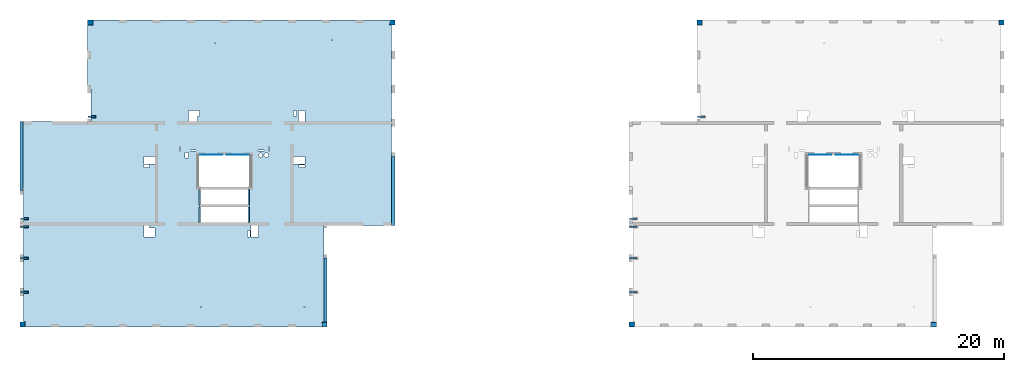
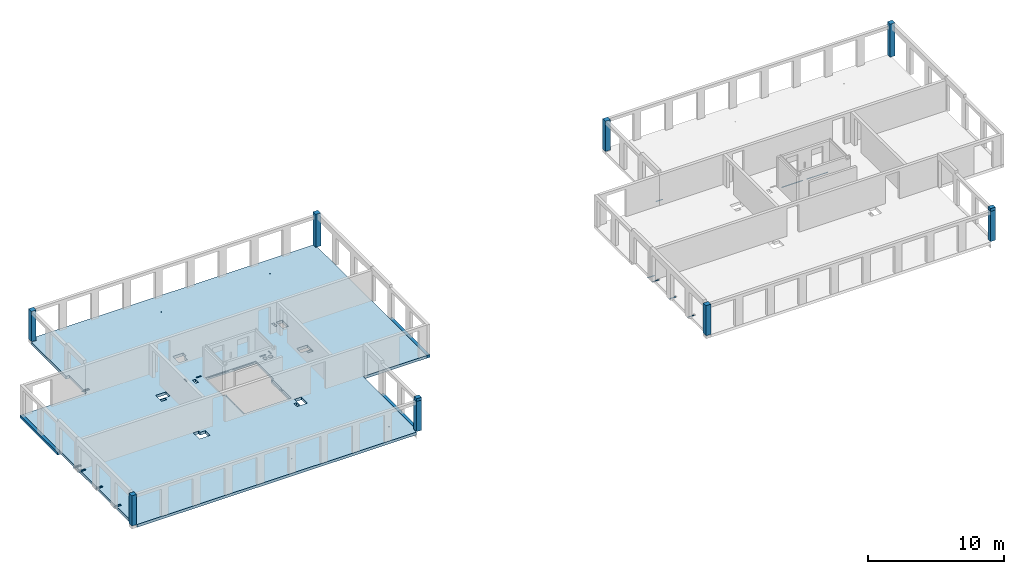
# One storey, part 1 of 8: 14 beams, 10 columns, 4 slabs, 35 openings.
"""IFC2X3 building model written with IfcOpenShell, lengths in millimetres."""

from ifc_helpers import new_model, entity, si_unit, converted_unit, derived_unit, direction, frame, frame_2d, origin, origin_2d_with_axis, place, context, subcontext, project, spatial, polyline, rectangle, circle, outline, extrude, source, transform, mapped, material, layer, layer_set, layer_usage, type_object, type_shapes, element, save


model = new_model("IFC2X3")

# Units and contexts
model_context = context("Model", 3, precision=0.01, world=origin(), true_north=direction((6.12303176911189e-17, 1.0)))
body_context = subcontext(model_context, "Body", "Model", "MODEL_VIEW")
ifc_project = project(units=[si_unit("LENGTHUNIT", "METRE", prefix="MILLI"), si_unit("AREAUNIT", "SQUARE_METRE"), si_unit("VOLUMEUNIT", "CUBIC_METRE"), converted_unit("PLANEANGLEUNIT", "DEGREE", entity("IfcRatioMeasure", 0.0174532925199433), si_unit("PLANEANGLEUNIT", "RADIAN"), dimensions=[0, 0, 0, 0, 0, 0, 0]), si_unit("MASSUNIT", "GRAM", prefix="KILO"), derived_unit("MASSDENSITYUNIT", [(si_unit("MASSUNIT", "GRAM", prefix="KILO"), 1), (si_unit("LENGTHUNIT", "METRE"), -3)]), si_unit("TIMEUNIT", "SECOND"), si_unit("FREQUENCYUNIT", "HERTZ"), si_unit("THERMODYNAMICTEMPERATUREUNIT", "DEGREE_CELSIUS"), derived_unit("THERMALTRANSMITTANCEUNIT", [(si_unit("MASSUNIT", "GRAM", prefix="KILO"), 1), (si_unit("THERMODYNAMICTEMPERATUREUNIT", "KELVIN"), -1), (si_unit("TIMEUNIT", "SECOND"), -3)]), derived_unit("VOLUMETRICFLOWRATEUNIT", [(si_unit("LENGTHUNIT", "METRE"), 3), (si_unit("TIMEUNIT", "SECOND"), -1)]), si_unit("ELECTRICCURRENTUNIT", "AMPERE"), si_unit("ELECTRICVOLTAGEUNIT", "VOLT"), si_unit("POWERUNIT", "WATT"), si_unit("FORCEUNIT", "NEWTON", prefix="KILO"), si_unit("ILLUMINANCEUNIT", "LUX"), si_unit("LUMINOUSFLUXUNIT", "LUMEN"), si_unit("LUMINOUSINTENSITYUNIT", "CANDELA"), derived_unit("USERDEFINED", [(si_unit("MASSUNIT", "GRAM", prefix="KILO"), -1), (si_unit("LENGTHUNIT", "METRE"), -2), (si_unit("TIMEUNIT", "SECOND"), 3), (si_unit("LUMINOUSFLUXUNIT", "LUMEN"), 1)]), derived_unit("LINEARVELOCITYUNIT", [(si_unit("LENGTHUNIT", "METRE"), 1), (si_unit("TIMEUNIT", "SECOND"), -1)]), si_unit("PRESSUREUNIT", "PASCAL"), derived_unit("USERDEFINED", [(si_unit("LENGTHUNIT", "METRE"), -2), (si_unit("MASSUNIT", "GRAM", prefix="KILO"), 1), (si_unit("TIMEUNIT", "SECOND"), -2)])], contexts=[model_context])

# Site, building, storey
site_placement = place(None, origin())
site = spatial("IfcSite", under=ifc_project, at=site_placement, Name="Default", CompositionType="ELEMENT")
building_placement = place(site_placement, origin())
building = spatial("IfcBuilding", under=site, at=building_placement, Name="niet gebruiken", CompositionType="ELEMENT")
storey_placement = place(building_placement, frame((0.0, 0.0, 45270.0)))
storey = spatial("IfcBuildingStorey", under=building, at=storey_placement, Name="15 vijftiende verdieping", CompositionType="ELEMENT", Elevation=45270.0)

# Columns
ifc_material_1 = material(Name="NLRS_f2_beton prefab")
column_type_1 = type_object("IfcColumnType", Name="410x410", PredefinedType="COLUMN", material=ifc_material_1)
shared_shape_1 = source(origin(), body_context, "Body", "SweptSolid", [
    extrude(rectangle(XDim=410.0, YDim=410.0, at=origin_2d_with_axis()), frame((0.0, 0.0, 45200.0), z_axis=(0.0, 0.0, 1.0), x_axis=(0.0, -1.0, 0.0)), (0.0, 0.0, 1.0), 2699.99999999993),
])
type_shapes(column_type_1, [shared_shape_1])
for number, where, name in (
    (1, (99795.0, 28961.0, -45270.0), "NLRS_28. kolom vierkant_gen:410x410"),
    (2, (81105.0, 53051.0, -45270.0), "NLRS_28. kolom vierkant_gen:410x410"),
    (3, (51195.0, 28961.0, -45270.0), "NLRS_28. kolom vierkant_gen:410x410"),
    (4, (32505.0, 53051.0, -45270.0), "NLRS_28. kolom vierkant_gen:410x410"),
):
    element("IfcColumn", number, at=place(storey_placement, frame(where)), inside=storey, type_object=column_type_1, material=ifc_material_1, Name=name, ObjectType="410x410", context=body_context, shape_type="MappedRepresentation", body=[
        mapped(shared_shape_1, transform((0.0, 0.0, 0.0), scale=1.0)),
    ])
column_type_2 = type_object("IfcColumnType", Name="410x410", PredefinedType="COLUMN", material=ifc_material_1)
shared_shape_2 = source(origin(), body_context, "Body", "SweptSolid", [
    extrude(rectangle(XDim=410.0, YDim=410.0, at=origin_2d_with_axis()), frame((0.0, 0.0, 45200.0), z_axis=(0.0, 0.0, 1.0), x_axis=(0.0, -1.0, 0.0)), (0.0, 0.0, 1.0), 2700.0),
])
type_shapes(column_type_2, [shared_shape_2])
for number, where, z_axis, x_axis, name in (
    (5, (75705.0, 28961.0, -45270.0), (0.0, 0.0, 1.0), (0.0, 1.0, 0.0), "NLRS_28. kolom vierkant_gen1:410x410"),
    (6, (27105.0, 28961.0, -45270.0), (0.0, 0.0, 1.0), (0.0, 1.0, 0.0), "NLRS_28. kolom vierkant_gen1:410x410"),
):
    element("IfcColumn", number, at=place(storey_placement, frame(where, z_axis=z_axis, x_axis=x_axis)), inside=storey, type_object=column_type_2, material=ifc_material_1, Name=name, ObjectType="410x410", context=body_context, shape_type="MappedRepresentation", body=[
        mapped(shared_shape_2, transform((0.0, 0.0, 0.0), scale=1.0)),
    ])
column_type_3 = type_object("IfcColumnType", Name="410x410", PredefinedType="COLUMN", material=ifc_material_1)
shared_shape_3 = source(origin(), body_context, "Body", "SweptSolid", [
    extrude(rectangle(XDim=410.000000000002, YDim=409.999999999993, at=origin_2d_with_axis()), frame((105195.0, 53051.0, 45200.0), z_axis=(0.0, 0.0, 1.0), x_axis=(0.0, -1.0, 0.0)), (0.0, 0.0, 1.0), 2950.00000000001),
])
type_shapes(column_type_3, [shared_shape_3])
column_1_placement = place(storey_placement, frame((0.0, 0.0, -45270.0)))
element("IfcColumn", 7, at=column_1_placement, inside=storey, type_object=column_type_3, material=ifc_material_1, Name="NLRS_28. kolom vierkant_gen:410x410", ObjectType="410x410", context=body_context, shape_type="MappedRepresentation", body=[
    mapped(shared_shape_3, transform((0.0, 0.0, 0.0), scale=1.0)),
])
column_type_4 = type_object("IfcColumnType", Name="410x410", PredefinedType="COLUMN", material=ifc_material_1)
shared_shape_4 = source(origin(), body_context, "Body", "SweptSolid", [
    extrude(rectangle(XDim=410.000000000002, YDim=410.000000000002, at=frame_2d((8.66862137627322e-12, 0.0), x_axis=(1.0, 0.0))), frame((56595.0, 53051.0, 45200.0), z_axis=(0.0, 0.0, 1.0), x_axis=(0.0, -1.0, 0.0)), (0.0, 0.0, 1.0), 2950.00000000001),
])
type_shapes(column_type_4, [shared_shape_4])
column_2_placement = place(storey_placement, frame((0.0, 0.0, -45270.0)))
element("IfcColumn", 8, at=column_2_placement, inside=storey, type_object=column_type_4, material=ifc_material_1, Name="NLRS_28. kolom vierkant_gen:410x410", ObjectType="410x410", context=body_context, shape_type="MappedRepresentation", body=[
    mapped(shared_shape_4, transform((0.0, 0.0, 0.0), scale=1.0)),
])
column_type_5 = type_object("IfcColumnType", Name="410x360", PredefinedType="COLUMN", material=ifc_material_1)
shared_shape_5 = source(origin(), body_context, "Body", "SweptSolid", [
    extrude(rectangle(XDim=360.0, YDim=409.999999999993, at=origin_2d_with_axis()), frame((99795.0, 28936.0, 47900.0), z_axis=(0.0, 0.0, 1.0), x_axis=(0.0, -1.0, 0.0)), (0.0, 0.0, 1.0), 250.000000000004),
])
type_shapes(column_type_5, [shared_shape_5])
column_3_placement = place(storey_placement, frame((0.0, 0.0, -45270.0)))
element("IfcColumn", 9, at=column_3_placement, inside=storey, type_object=column_type_5, material=ifc_material_1, Name="NLRS_28. kolom vierkant_gen:410x360", ObjectType="410x360", context=body_context, shape_type="MappedRepresentation", body=[
    mapped(shared_shape_5, transform((0.0, 0.0, 0.0), scale=1.0)),
])
column_type_6 = type_object("IfcColumnType", Name="410x360", PredefinedType="COLUMN", material=ifc_material_1)
shared_shape_6 = source(origin(), body_context, "Body", "SweptSolid", [
    extrude(rectangle(XDim=360.0, YDim=410.000000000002, at=origin_2d_with_axis()), frame((51195.0, 28936.0, 47900.0), z_axis=(0.0, 0.0, 1.0), x_axis=(0.0, -1.0, 0.0)), (0.0, 0.0, 1.0), 250.000000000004),
])
type_shapes(column_type_6, [shared_shape_6])
column_4_placement = place(storey_placement, frame((0.0, 0.0, -45270.0)))
element("IfcColumn", 10, at=column_4_placement, inside=storey, type_object=column_type_6, material=ifc_material_1, Name="NLRS_28. kolom vierkant_gen:410x360", ObjectType="410x360", context=body_context, shape_type="MappedRepresentation", body=[
    mapped(shared_shape_6, transform((0.0, 0.0, 0.0), scale=1.0)),
])

# Beams
ifc_material_2 = material(Name="NLRS_h2_staal")
beam_type_1 = type_object("IfcBeamType", Name="ligger stripstaal RECT_120x10", PredefinedType="BEAM", material=ifc_material_2)
shared_shape_7 = source(origin(), body_context, "Body", "SweptSolid", [
    extrude(rectangle(XDim=599.999999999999, YDim=120.0, at=origin_2d_with_axis()), frame((0.0, 0.0, -5.0), z_axis=(0.0, 0.0, 1.0), x_axis=(-1.0, 0.0, 0.0)), (0.0, 0.0, 1.0), 9.99999999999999),
    extrude(rectangle(XDim=599.999999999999, YDim=120.0, at=origin_2d_with_axis()), frame((0.0, 0.0, -5.0), z_axis=(0.0, 0.0, 1.0), x_axis=(-1.0, 0.0, 0.0)), (0.0, 0.0, 1.0), 9.99999999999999),
])
type_shapes(beam_type_1, [shared_shape_7])
for number, where, name in (
    (11, (75835.0, 31556.0, -115.0), "NLRS_28.11_SF_WPB_stalen ligger stripstaal_gen:ligger stripstaal RECT_120x10"),
    (12, (75835.0, 34256.0, -115.0), "NLRS_28.11_SF_WPB_stalen ligger stripstaal_gen:ligger stripstaal RECT_120x10"),
    (13, (75835.0, 36766.0, -115.0), "NLRS_28.11_SF_WPB_stalen ligger stripstaal_gen:ligger stripstaal RECT_120x10"),
    (14, (27235.0, 31556.0, -115.0), "NLRS_28.11_SF_WPB_stalen ligger stripstaal_gen:ligger stripstaal RECT_120x10"),
    (15, (27235.0, 34256.0, -115.0), "NLRS_28.11_SF_WPB_stalen ligger stripstaal_gen:ligger stripstaal RECT_120x10"),
    (16, (27235.0, 36766.0, -115.0), "NLRS_28.11_SF_WPB_stalen ligger stripstaal_gen:ligger stripstaal RECT_120x10"),
):
    element("IfcBeam", number, at=place(storey_placement, frame(where)), inside=storey, type_object=beam_type_1, material=ifc_material_2, Name=name, ObjectType="ligger stripstaal RECT_120x10", context=body_context, shape_type="MappedRepresentation", body=[
        mapped(shared_shape_7, transform((0.0, 0.0, 0.0), scale=1.0)),
    ])
beam_type_2 = type_object("IfcBeamType", Name="NLRS_28.11_SF_WPB_Halfen 40-22_gen:ligger stripstaal RECT_100x10", PredefinedType="BEAM")
beam_1_placement = place(storey_placement, frame((89865.0, 42496.0, -160.0)))
element("IfcBeam", 17, at=beam_1_placement, inside=storey, type_object=beam_type_2, material=ifc_material_2, Name="NLRS_28.11_SF_WPB_Halfen 40-22_gen:ligger stripstaal RECT_100x10", ObjectType="NLRS_28.11_SF_WPB_Halfen 40-22_gen:ligger stripstaal RECT_100x10", context=body_context, shape_type="SweptSolid", body=[
    extrude(outline(polyline([(-20.0, -8.0), (-9.0, -8.0), (-9.0, 0.0), (-11.0, 0.0), (-11.0, -6.0), (-18.0, -6.0), (-18.0, 13.0), (18.0, 13.0), (18.0, -6.0), (11.0, -6.0), (11.0, 0.0), (9.0, 0.0), (9.0, -8.0), (20.0, -8.0), (20.0, 15.0), (-20.0, 15.0), (-20.0, -8.0)])), frame((0.0, 8.0, 20.0), z_axis=(1.0, 0.0, 0.0), x_axis=(0.0, 0.0, -1.0)), (0.0, 0.0, 1.0), 1760.00000000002),
])
beam_2_placement = place(storey_placement, frame((91975.0, 42496.0, -160.0)))
element("IfcBeam", 18, at=beam_2_placement, inside=storey, type_object=beam_type_2, material=ifc_material_2, Name="NLRS_28.11_SF_WPB_Halfen 40-22_gen:ligger stripstaal RECT_100x10", ObjectType="NLRS_28.11_SF_WPB_Halfen 40-22_gen:ligger stripstaal RECT_100x10", context=body_context, shape_type="SweptSolid", body=[
    extrude(outline(polyline([(-20.0, -8.0), (-9.0, -8.0), (-9.0, 0.0), (-11.0, 0.0), (-11.0, -6.0), (-18.0, -6.0), (-18.0, 13.0), (18.0, 13.0), (18.0, -6.0), (11.0, -6.0), (11.0, 0.0), (9.0, 0.0), (9.0, -8.0), (20.0, -8.0), (20.0, 15.0), (-20.0, 15.0), (-20.0, -8.0)])), frame((0.0, 8.0, 20.0), z_axis=(1.0, 0.0, 0.0), x_axis=(0.0, 0.0, -1.0)), (0.0, 0.0, 1.0), 1760.0),
])
for number, where, name in (
    (19, (41264.9998491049, 42496.0, -160.0), "NLRS_28.11_SF_WPB_Halfen 40-22_gen:ligger stripstaal RECT_100x10"),
    (20, (43374.999849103, 42496.0, -160.0), "NLRS_28.11_SF_WPB_Halfen 40-22_gen:ligger stripstaal RECT_100x10"),
):
    element("IfcBeam", number, at=place(storey_placement, frame(where)), inside=storey, type_object=beam_type_2, material=ifc_material_2, Name=name, ObjectType="NLRS_28.11_SF_WPB_Halfen 40-22_gen:ligger stripstaal RECT_100x10", context=body_context, shape_type="SweptSolid", body=[
        extrude(outline(polyline([(-20.0, -8.0), (-9.0, -8.0), (-9.0, 0.0), (-11.0, 0.0), (-11.0, -6.0), (-18.0, -6.0), (-18.0, 13.0), (18.0, 13.0), (18.0, -6.0), (11.0, -6.0), (11.0, 0.0), (9.0, 0.0), (9.0, -8.0), (20.0, -8.0), (20.0, 15.0), (-20.0, 15.0), (-20.0, -8.0)])), frame((0.0, 8.0, 20.0), z_axis=(1.0, 0.0, 0.0), x_axis=(0.0, 0.0, -1.0)), (0.0, 0.0, 1.0), 1760.00000000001),
    ])
beam_type_3 = type_object("IfcBeamType", Name="ligger stripstaal RECT_120x10", PredefinedType="BEAM", material=ifc_material_2)
shared_shape_8 = source(origin(), body_context, "Body", "SweptSolid", [
    extrude(rectangle(XDim=120.0, YDim=600.000000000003, at=origin_2d_with_axis()), frame((0.0, 0.0, -5.0), z_axis=(0.0, 0.0, 1.0), x_axis=(0.0, 1.0, 0.0)), (0.0, 0.0, 1.0), 9.99999999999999),
    extrude(rectangle(XDim=120.0, YDim=600.000000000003, at=origin_2d_with_axis()), frame((0.0, 0.0, -5.0), z_axis=(0.0, 0.0, 1.0), x_axis=(0.0, 1.0, 0.0)), (0.0, 0.0, 1.0), 9.99999999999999),
])
type_shapes(beam_type_3, [shared_shape_8])
for number, where, name in (
    (21, (75835.0, 37386.0, -115.0), "NLRS_28.11_SF_WPB_stalen ligger stripstaal_gen:ligger stripstaal RECT_120x10"),
    (22, (81235.0, 45521.0, -115.0), "NLRS_28.11_SF_WPB_stalen ligger stripstaal_gen:ligger stripstaal RECT_120x10"),
    (23, (27235.0, 37386.0, -115.0), "NLRS_28.11_SF_WPB_stalen ligger stripstaal_gen:ligger stripstaal RECT_120x10"),
    (24, (32635.0, 45521.0, -115.0), "NLRS_28.11_SF_WPB_stalen ligger stripstaal_gen:ligger stripstaal RECT_120x10"),
):
    element("IfcBeam", number, at=place(storey_placement, frame(where)), inside=storey, type_object=beam_type_3, material=ifc_material_2, Name=name, ObjectType="ligger stripstaal RECT_120x10", context=body_context, shape_type="MappedRepresentation", body=[
        mapped(shared_shape_8, transform((0.0, 0.0, 0.0), scale=1.0)),
    ])

# Slab, openings
ifc_material_3 = material(Name="NLRS_f2_beton ihwg")
ifc_layer = layer(ifc_material_3, 250.0)
ifc_layer_set = layer_set([ifc_layer], Name="Floor:NLRS_23.21_FL_beton ihwg d=250_gen")
ifc_layer_usage_1 = layer_usage(ifc_layer_set, "AXIS3", "POSITIVE", 0.0)
slab_1_placement = place(storey_placement, frame((27150.0, 28756.0, -340.0)))
slab_1 = element("IfcSlab", 25, at=slab_1_placement, inside=storey, material=ifc_layer_usage_1, Name="Floor:NLRS_23.21_FL_beton ihwg d=250_gen", ObjectType="Floor:NLRS_23.21_FL_beton ihwg d=250_gen", PredefinedType="FLOOR", context=body_context, shape_type="SweptSolid", body=[
    extrude(outline(polyline([(9119.99996701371, 12250.0), (-14540.0, 12250.0), (-14540.0, 11840.0), (-14680.0, 11840.0), (-14680.0, 4060.0), (-14700.0, 4060.0), (-14700.0, -4150.0), (-9300.0, -4150.0), (-9300.0, -11890.0), (-9140.0, -11890.0), (-9140.0, -12250.0), (14520.0, -12250.0), (14520.0, -11820.0), (14660.0, -11820.0), (14660.0, -4060.0), (14680.0, -4060.0), (14680.0, -1040.0), (14950.0, -1040.0), (14950.0, 4150.0), (9280.0, 4150.0), (9280.0, 6750.0), (9550.0, 6750.0), (9550.0, 11820.0), (9119.99996701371, 11820.0), (9119.99996701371, 12250.0)])), frame((14700.0, 12250.0, 250.0), z_axis=(0.0, 0.0, -1.0), x_axis=(-1.0, 0.0, 0.0)), (0.0, 0.0, 1.0), 250.000000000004),
])
opening_1_placement = place(storey_placement, frame((27150.0, 28756.0, -340.0)))
element("IfcOpeningElement", 26, at=opening_1_placement, cuts=slab_1, ObjectType="Opening", context=body_context, shape_type="SweptSolid", body=[
    extrude(circle(Radius=37.5, at=frame_2d((-7750.0, -10650.0), x_axis=(1.0, 0.0))), frame((14700.0, 12250.0, 250.0), z_axis=(0.0, 0.0, -1.0), x_axis=(-1.0, 0.0, 0.0)), (0.0, 0.0, 1.0), 250.000000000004),
])
opening_2_placement = place(storey_placement, frame((27150.0, 28756.0, -340.0)))
element("IfcOpeningElement", 27, at=opening_2_placement, cuts=slab_1, ObjectType="Opening", context=body_context, shape_type="SweptSolid", body=[
    extrude(circle(Radius=37.5, at=frame_2d((-9950.0, 10650.0), x_axis=(1.0, 0.0))), frame((14700.0, 12250.0, 250.0), z_axis=(0.0, 0.0, -1.0), x_axis=(-1.0, 0.0, 0.0)), (0.0, 0.0, 1.0), 250.000000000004),
])
opening_3_placement = place(storey_placement, frame((27150.0, 28756.0, -340.0)))
element("IfcOpeningElement", 28, at=opening_3_placement, cuts=slab_1, ObjectType="Opening", context=body_context, shape_type="SweptSolid", body=[
    extrude(circle(Radius=37.5, at=frame_2d((-600.0, 10400.0), x_axis=(1.0, 0.0))), frame((14700.0, 12250.0, 250.0), z_axis=(0.0, 0.0, -1.0), x_axis=(-1.0, 0.0, 0.0)), (0.0, 0.0, 1.0), 250.000000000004),
])
opening_4_placement = place(storey_placement, frame((27150.0, 28756.0, -340.0)))
element("IfcOpeningElement", 29, at=opening_4_placement, cuts=slab_1, ObjectType="Opening", context=body_context, shape_type="SweptSolid", body=[
    extrude(circle(Radius=37.5, at=frame_2d((500.0, -10650.0), x_axis=(1.0, 0.0))), frame((14700.0, 12250.0, 250.0), z_axis=(0.0, 0.0, -1.0), x_axis=(-1.0, 0.0, 0.0)), (0.0, 0.0, 1.0), 250.000000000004),
])
opening_5_placement = place(slab_1_placement, origin())
element("IfcOpeningElement", 30, at=opening_5_placement, cuts=slab_1, ObjectType="Opening", context=body_context, shape_type="SweptSolid", body=[
    extrude(rectangle(XDim=110.000000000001, YDim=1220.0, at=origin_2d_with_axis()), frame((14094.9999671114, 10380.0, 210.0)), (0.0, 0.0, 1.0), 39.9999999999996),
])
opening_6_placement = place(slab_1_placement, origin())
element("IfcOpeningElement", 31, at=opening_6_placement, cuts=slab_1, ObjectType="Opening", context=body_context, shape_type="SweptSolid", body=[
    extrude(rectangle(XDim=110.000000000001, YDim=1220.0, at=origin_2d_with_axis()), frame((18005.0, 10380.0, 210.0)), (0.0, 0.0, 1.0), 39.9999999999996),
])
opening_7_placement = place(slab_1_placement, origin())
element("IfcOpeningElement", 32, at=opening_7_placement, cuts=slab_1, ObjectType="Opening", context=body_context, shape_type="SweptSolid", body=[
    extrude(rectangle(XDim=110.000000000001, YDim=1220.0, at=origin_2d_with_axis()), frame((18005.0, 8960.0, 210.0)), (0.0, 0.0, 1.0), 39.9999999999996),
])
opening_8_placement = place(slab_1_placement, origin())
element("IfcOpeningElement", 33, at=opening_8_placement, cuts=slab_1, ObjectType="Opening", context=body_context, shape_type="SweptSolid", body=[
    extrude(rectangle(XDim=110.000000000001, YDim=1220.0, at=origin_2d_with_axis()), frame((14094.9999671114, 8960.0, 210.0)), (0.0, 0.0, 1.0), 39.9999999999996),
])
opening_9_placement = place(slab_1_placement, origin())
element("IfcOpeningElement", 34, at=opening_9_placement, cuts=slab_1, ObjectType="Opening", context=body_context, shape_type="SweptSolid", body=[
    extrude(rectangle(XDim=400.000000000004, YDim=200.000000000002, at=origin_2d_with_axis()), frame((220.0, 8630.0, 220.0)), (0.0, 0.0, 1.0), 30.0000000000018),
])
opening_10_placement = place(slab_1_placement, origin())
element("IfcOpeningElement", 35, at=opening_10_placement, cuts=slab_1, ObjectType="Opening", context=body_context, shape_type="SweptSolid", body=[
    extrude(rectangle(XDim=200.000000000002, YDim=400.000000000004, at=origin_2d_with_axis()), frame((240.0, 8000.0, 220.0), z_axis=(0.0, 0.0, 1.0), x_axis=(0.0, -1.0, 0.0)), (0.0, 0.0, 1.0), 30.0000000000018),
])
opening_11_placement = place(slab_1_placement, origin())
element("IfcOpeningElement", 36, at=opening_11_placement, cuts=slab_1, ObjectType="Opening", context=body_context, shape_type="SweptSolid", body=[
    extrude(rectangle(XDim=200.000000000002, YDim=400.000000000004, at=origin_2d_with_axis()), frame((240.0, 5500.0, 220.0), z_axis=(0.0, 0.0, 1.0), x_axis=(0.0, -1.0, 0.0)), (0.0, 0.0, 1.0), 30.0000000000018),
])
opening_12_placement = place(slab_1_placement, origin())
element("IfcOpeningElement", 37, at=opening_12_placement, cuts=slab_1, ObjectType="Opening", context=body_context, shape_type="SweptSolid", body=[
    extrude(rectangle(XDim=200.000000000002, YDim=400.000000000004, at=origin_2d_with_axis()), frame((240.0, 2800.0, 220.0), z_axis=(0.0, 0.0, 1.0), x_axis=(0.0, -1.0, 0.0)), (0.0, 0.0, 1.0), 30.0000000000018),
])
opening_13_placement = place(slab_1_placement, origin())
element("IfcOpeningElement", 38, at=opening_13_placement, cuts=slab_1, ObjectType="Opening", context=body_context, shape_type="SweptSolid", body=[
    extrude(rectangle(XDim=400.000000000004, YDim=199.999999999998, at=origin_2d_with_axis()), frame((5620.0, 16765.0, 220.0)), (0.0, 0.0, 1.0), 30.0000000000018),
])
opening_14_placement = place(slab_1_placement, origin())
element("IfcOpeningElement", 39, at=opening_14_placement, cuts=slab_1, ObjectType="Opening", context=body_context, shape_type="SweptSolid", body=[
    extrude(rectangle(XDim=900.000000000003, YDim=729.999999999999, at=origin_2d_with_axis()), frame((13550.0, 16850.0, 0.0), z_axis=(0.0, 0.0, 1.0), x_axis=(0.0, 1.0, 0.0)), (0.0, 0.0, 1.0), 250.000000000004),
])
opening_15_placement = place(slab_1_placement, origin())
element("IfcOpeningElement", 40, at=opening_15_placement, cuts=slab_1, ObjectType="Opening", context=body_context, shape_type="SweptSolid", body=[
    extrude(rectangle(XDim=170.000000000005, YDim=450.000000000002, at=origin_2d_with_axis()), frame((14000.0, 17075.0, 0.0), z_axis=(0.0, 0.0, 1.0), x_axis=(-1.0, 0.0, 0.0)), (0.0, 0.0, 1.0), 250.000000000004),
])
opening_16_placement = place(slab_1_placement, origin())
element("IfcOpeningElement", 41, at=opening_16_placement, cuts=slab_1, ObjectType="Opening", context=body_context, shape_type="SweptSolid", body=[
    extrude(rectangle(XDim=900.000000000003, YDim=700.000000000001, at=origin_2d_with_axis()), frame((10075.0, 7550.0, 0.0), z_axis=(0.0, 0.0, 1.0), x_axis=(-1.0, 0.0, 0.0)), (0.0, 0.0, 1.0), 250.000000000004),
])
opening_17_placement = place(slab_1_placement, origin())
element("IfcOpeningElement", 42, at=opening_17_placement, cuts=slab_1, ObjectType="Opening", context=body_context, shape_type="SweptSolid", body=[
    extrude(rectangle(XDim=200.000000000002, YDim=450.000000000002, at=origin_2d_with_axis()), frame((9850.0, 8000.0, 0.0), z_axis=(0.0, 0.0, 1.0), x_axis=(0.0, -1.0, 0.0)), (0.0, 0.0, 1.0), 250.000000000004),
])
opening_18_placement = place(slab_1_placement, origin())
element("IfcOpeningElement", 43, at=opening_18_placement, cuts=slab_1, ObjectType="Opening", context=body_context, shape_type="SweptSolid", body=[
    extrude(rectangle(XDim=900.000000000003, YDim=600.000000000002, at=origin_2d_with_axis()), frame((10075.0, 13330.0, 0.0), z_axis=(0.0, 0.0, 1.0), x_axis=(-1.0, 0.0, 0.0)), (0.0, 0.0, 1.0), 250.000000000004),
])
opening_19_placement = place(slab_1_placement, origin())
element("IfcOpeningElement", 44, at=opening_19_placement, cuts=slab_1, ObjectType="Opening", context=body_context, shape_type="SweptSolid", body=[
    extrude(rectangle(XDim=900.000000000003, YDim=499.999999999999, at=origin_2d_with_axis()), frame((22225.0, 16850.0, 0.0), z_axis=(0.0, 0.0, 1.0), x_axis=(0.0, 1.0, 0.0)), (0.0, 0.0, 1.0), 250.000000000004),
])
opening_20_placement = place(slab_1_placement, origin())
element("IfcOpeningElement", 45, at=opening_20_placement, cuts=slab_1, ObjectType="Opening", context=body_context, shape_type="SweptSolid", body=[
    extrude(rectangle(XDim=899.999999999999, YDim=600.000000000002, at=origin_2d_with_axis()), frame((18479.9818996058, 7650.0, 0.0), z_axis=(0.0, 0.0, 1.0), x_axis=(0.0, 1.0, 0.0)), (0.0, 0.0, 1.0), 250.000000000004),
])
opening_21_placement = place(slab_1_placement, origin())
element("IfcOpeningElement", 46, at=opening_21_placement, cuts=slab_1, ObjectType="Opening", context=body_context, shape_type="SweptSolid", body=[
    extrude(rectangle(XDim=900.000000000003, YDim=600.000000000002, at=origin_2d_with_axis()), frame((22025.0, 13330.0, 0.0), z_axis=(0.0, 0.0, 1.0), x_axis=(-1.0, 0.0, 0.0)), (0.0, 0.0, 1.0), 250.000000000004),
])
opening_22_placement = place(slab_1_placement, origin())
element("IfcOpeningElement", 47, at=opening_22_placement, cuts=slab_1, ObjectType="Opening", context=body_context, shape_type="SweptSolid", body=[
    extrude(rectangle(XDim=1760.00000000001, YDim=23.0000000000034, at=origin_2d_with_axis()), frame((14994.9998491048, 13751.5, 180.0)), (0.0, 0.0, 1.0), 40.0000000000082),
])
opening_23_placement = place(slab_1_placement, origin())
element("IfcOpeningElement", 48, at=opening_23_placement, cuts=slab_1, ObjectType="Opening", context=body_context, shape_type="SweptSolid", body=[
    extrude(rectangle(XDim=1760.00000000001, YDim=23.0000000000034, at=origin_2d_with_axis()), frame((17104.999849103, 13751.5, 180.0)), (0.0, 0.0, 1.0), 40.0000000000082),
])
opening_24_placement = place(slab_1_placement, origin())
element("IfcOpeningElement", 49, at=opening_24_placement, cuts=slab_1, ObjectType="Opening", context=body_context, shape_type="SweptSolid", body=[
    extrude(rectangle(XDim=100.000000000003, YDim=340.000000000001, at=origin_2d_with_axis()), frame((19615.0, 14210.0, 0.0), z_axis=(0.0, 0.0, 1.0), x_axis=(-1.0, 0.0, 0.0)), (0.0, 0.0, 1.0), 250.000000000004),
])
opening_25_placement = place(slab_1_placement, origin())
element("IfcOpeningElement", 50, at=opening_25_placement, cuts=slab_1, ObjectType="Opening", context=body_context, shape_type="SweptSolid", body=[
    extrude(rectangle(XDim=100.000000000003, YDim=490.000000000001, at=origin_2d_with_axis()), frame((18975.0, 14090.0, 0.0), z_axis=(0.0, 0.0, 1.0), x_axis=(0.0, -1.0, 0.0)), (0.0, 0.0, 1.0), 250.000000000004),
])
opening_26_placement = place(slab_1_placement, origin())
element("IfcOpeningElement", 51, at=opening_26_placement, cuts=slab_1, ObjectType="Opening", context=body_context, shape_type="SweptSolid", body=[
    extrude(rectangle(XDim=100.000000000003, YDim=440.000000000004, at=origin_2d_with_axis()), frame((13555.0, 14090.0, 0.0), z_axis=(0.0, 0.0, 1.0), x_axis=(0.0, -1.0, 0.0)), (0.0, 0.0, 1.0), 250.000000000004),
])
opening_27_placement = place(slab_1_placement, origin())
element("IfcOpeningElement", 52, at=opening_27_placement, cuts=slab_1, ObjectType="Opening", context=body_context, shape_type="SweptSolid", body=[
    extrude(rectangle(XDim=100.000000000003, YDim=340.000000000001, at=origin_2d_with_axis()), frame((12505.0, 14210.0, 0.0), z_axis=(0.0, 0.0, 1.0), x_axis=(-1.0, 0.0, 0.0)), (0.0, 0.0, 1.0), 250.000000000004),
])
opening_28_placement = place(slab_1_placement, origin())
element("IfcOpeningElement", 53, at=opening_28_placement, cuts=slab_1, ObjectType="Opening", context=body_context, shape_type="SweptSolid", body=[
    extrude(rectangle(XDim=230.0, YDim=450.000000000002, at=origin_2d_with_axis()), frame((9850.00008659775, 12845.0002270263, 0.0), z_axis=(0.0, 0.0, 1.0), x_axis=(0.0, -1.0, 0.0)), (0.0, 0.0, 1.0), 250.000000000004),
])
opening_29_placement = place(slab_1_placement, origin())
element("IfcOpeningElement", 54, at=opening_29_placement, cuts=slab_1, ObjectType="Opening", context=body_context, shape_type="SweptSolid", body=[
    extrude(rectangle(XDim=220.000000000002, YDim=450.000000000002, at=origin_2d_with_axis()), frame((21685.0, 17075.0, 0.0), z_axis=(0.0, 0.0, 1.0), x_axis=(-1.0, 0.0, 0.0)), (0.0, 0.0, 1.0), 250.000000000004),
])
opening_30_placement = place(slab_1_placement, origin())
element("IfcOpeningElement", 55, at=opening_30_placement, cuts=slab_1, ObjectType="Opening", context=body_context, shape_type="SweptSolid", body=[
    extrude(rectangle(XDim=220.000000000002, YDim=450.000000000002, at=origin_2d_with_axis()), frame((22250.0, 12840.0, 0.0), z_axis=(0.0, 0.0, 1.0), x_axis=(0.0, -1.0, 0.0)), (0.0, 0.0, 1.0), 250.000000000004),
])
opening_31_placement = place(slab_1_placement, origin())
element("IfcOpeningElement", 56, at=opening_31_placement, cuts=slab_1, ObjectType="Opening", context=body_context, shape_type="SweptSolid", body=[
    extrude(rectangle(XDim=220.000000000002, YDim=450.000000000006, at=origin_2d_with_axis()), frame((17990.0, 7425.0, 0.0)), (0.0, 0.0, 1.0), 250.000000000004),
])
opening_32_placement = place(slab_1_placement, origin())
element("IfcOpeningElement", 57, at=opening_32_placement, cuts=slab_1, ObjectType="Opening", context=body_context, shape_type="SweptSolid", body=[
    extrude(rectangle(XDim=250.000000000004, YDim=440.000000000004, at=origin_2d_with_axis()), frame((13055.0, 13720.0, 0.0)), (0.0, 0.0, 1.0), 250.000000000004),
])
opening_33_placement = place(slab_1_placement, origin())
element("IfcOpeningElement", 58, at=opening_33_placement, cuts=slab_1, ObjectType="Opening", context=body_context, shape_type="SweptSolid", body=[
    extrude(circle(Radius=177.5, at=origin_2d_with_axis()), frame((19400.0, 13720.0, 0.0)), (0.0, 0.0, 1.0), 250.000000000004),
])
opening_34_placement = place(slab_1_placement, origin())
element("IfcOpeningElement", 59, at=opening_34_placement, cuts=slab_1, ObjectType="Opening", context=body_context, shape_type="SweptSolid", body=[
    extrude(circle(Radius=157.5, at=origin_2d_with_axis()), frame((18950.0, 13720.0, 0.0)), (0.0, 0.0, 1.0), 250.000000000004),
])
opening_35_placement = place(slab_1_placement, frame((16050.0, 10378.75, 250.0)))
element("IfcOpeningElement", 60, at=opening_35_placement, cuts=slab_1, Name="Floor:NLRS_23.21_FL_beton ihwg d=250_gen:2", ObjectType="Opening", context=body_context, shape_type="SweptSolid", body=[
    extrude(outline(polyline([(-1899.99998355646, -2028.75000000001), (1900.00001644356, -2028.75000000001), (1900.00001644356, -808.750000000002), (1999.9999835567, -808.750000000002), (1999.9999835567, -608.75), (1900.00001644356, -608.75), (1900.00001644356, 751.250000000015), (2134.99998355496, 751.250000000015), (2134.99998355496, 3361.24999999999), (-2135.00001644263, 3361.24999999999), (-2135.00001644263, 751.250000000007), (-1899.99998355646, 751.250000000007), (-1899.99998355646, -608.750000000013), (-2000.00001644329, -608.750000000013), (-2000.00001644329, -808.750000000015), (-1899.99998355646, -808.750000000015), (-1899.99998355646, -2028.75000000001)])), frame((0.0, 0.0, 0.0), z_axis=(0.0, 0.0, -1.0), x_axis=(-1.0, 0.0, 0.0)), (0.0, 0.0, 1.0), 250.000000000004),
])

# Slabs
ifc_layer_usage_2 = layer_usage(ifc_layer_set, "AXIS3", "POSITIVE", 0.0)
slab_2_placement = place(storey_placement, origin())
element("IfcSlab", 61, at=slab_2_placement, inside=storey, material=ifc_layer_usage_2, Name="Floor:NLRS_23.21_FL_beton ihwg d=250_gen", ObjectType="Floor:NLRS_23.21_FL_beton ihwg d=250_gen", PredefinedType="FLOOR", context=body_context, shape_type="SweptSolid", body=[
    extrude(rectangle(XDim=5499.99999999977, YDim=250.000000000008, at=frame_2d((0.0, 2.16715534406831e-12), x_axis=(1.0, 0.0))), frame((27025.0, 42406.0, -90.0), z_axis=(0.0, 0.0, -1.0), x_axis=(0.0, 1.0, 0.0)), (0.0, 0.0, 1.0), 250.000000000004),
])
ifc_layer_usage_3 = layer_usage(ifc_layer_set, "AXIS3", "POSITIVE", 0.0)
slab_3_placement = place(storey_placement, origin())
element("IfcSlab", 62, at=slab_3_placement, inside=storey, material=ifc_layer_usage_3, Name="Floor:NLRS_23.21_FL_beton ihwg d=250_gen", ObjectType="Floor:NLRS_23.21_FL_beton ihwg d=250_gen", PredefinedType="FLOOR", context=body_context, shape_type="SweptSolid", body=[
    extrude(rectangle(XDim=5140.00000000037, YDim=250.000065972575, at=frame_2d((-2.27373675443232e-12, 0.0), x_axis=(1.0, 0.0))), frame((51275.0, 31686.0, -90.0), z_axis=(0.0, 0.0, -1.0), x_axis=(0.0, 1.0, 0.0)), (0.0, 0.0, 1.0), 250.000000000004),
])
ifc_layer_usage_4 = layer_usage(ifc_layer_set, "AXIS3", "POSITIVE", 0.0)
slab_4_placement = place(storey_placement, origin())
element("IfcSlab", 63, at=slab_4_placement, inside=storey, material=ifc_layer_usage_4, Name="Floor:NLRS_23.21_FL_beton ihwg d=250_gen", ObjectType="Floor:NLRS_23.21_FL_beton ihwg d=250_gen", PredefinedType="FLOOR", context=body_context, shape_type="SweptSolid", body=[
    extrude(rectangle(XDim=5500.00000000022, YDim=250.000000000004, at=frame_2d((0.0, -4.33431068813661e-12), x_axis=(1.0, 0.0))), frame((56675.0, 39606.0, -90.0), z_axis=(0.0, 0.0, -1.0), x_axis=(0.0, 1.0, 0.0)), (0.0, 0.0, 1.0), 250.000000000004),
])

save(model, "model.ifc")
